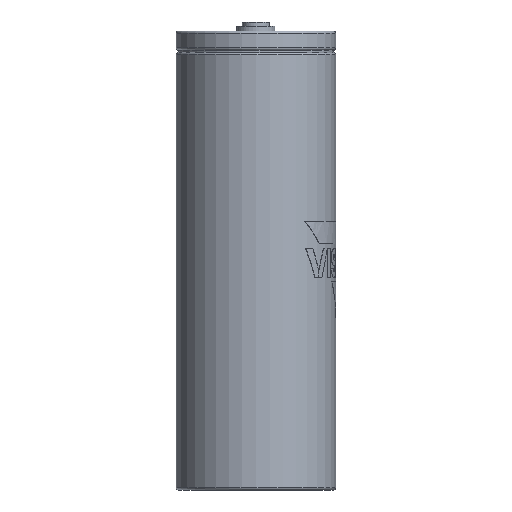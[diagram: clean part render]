
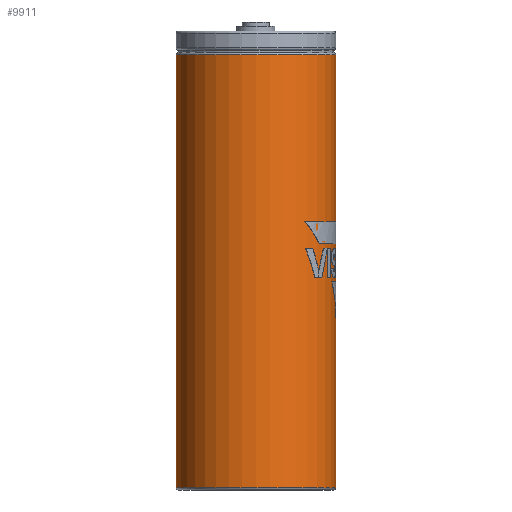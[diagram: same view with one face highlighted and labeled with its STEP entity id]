
A CAD part, left-side view. The second image highlights one B-rep face of the part: STEP entity #9911.
In plain terms, the highlighted cylindrical face has radius 38.2 mm (diameter 76.4 mm), a full revolution.
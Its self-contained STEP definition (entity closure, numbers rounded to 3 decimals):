
#9844 = TOROIDAL_SURFACE('',#9845,37.1,1.1);
#9845 = AXIS2_PLACEMENT_3D('',#9846,#9847,#9848);
#9846 = CARTESIAN_POINT('',(0.,0.,-217.6));
#9847 = DIRECTION('',(0.,0.,1.));
#9848 = DIRECTION('',(1.,0.,0.));
#9861 = VERTEX_POINT('',#9862);
#9862 = CARTESIAN_POINT('',(38.2,0.,-217.6));
#9884 = EDGE_CURVE('',#9861,#9861,#9885,.T.);
#9885 = SURFACE_CURVE('',#9886,(#9891,#9898),.PCURVE_S1.);
#9886 = CIRCLE('',#9887,38.2);
#9887 = AXIS2_PLACEMENT_3D('',#9888,#9889,#9890);
#9888 = CARTESIAN_POINT('',(0.,0.,-217.6));
#9889 = DIRECTION('',(-0.,0.,1.));
#9890 = DIRECTION('',(1.,0.,0.));
#9891 = PCURVE('',#9844,#9892);
#9892 = DEFINITIONAL_REPRESENTATION('',(#9893),#9897);
#9893 = LINE('',#9894,#9895);
#9894 = CARTESIAN_POINT('',(0.,6.283));
#9895 = VECTOR('',#9896,1.);
#9896 = DIRECTION('',(1.,0.));
#9897 = ( GEOMETRIC_REPRESENTATION_CONTEXT(2) 
PARAMETRIC_REPRESENTATION_CONTEXT() REPRESENTATION_CONTEXT('2D SPACE',''
  ) );
#9898 = PCURVE('',#9899,#9904);
#9899 = CYLINDRICAL_SURFACE('',#9900,38.2);
#9900 = AXIS2_PLACEMENT_3D('',#9901,#9902,#9903);
#9901 = CARTESIAN_POINT('',(0.,0.,-217.6));
#9902 = DIRECTION('',(0.,0.,1.));
#9903 = DIRECTION('',(1.,0.,0.));
#9904 = DEFINITIONAL_REPRESENTATION('',(#9905),#9909);
#9905 = LINE('',#9906,#9907);
#9906 = CARTESIAN_POINT('',(0.,0.));
#9907 = VECTOR('',#9908,1.);
#9908 = DIRECTION('',(1.,0.));
#9909 = ( GEOMETRIC_REPRESENTATION_CONTEXT(2) 
PARAMETRIC_REPRESENTATION_CONTEXT() REPRESENTATION_CONTEXT('2D SPACE',''
  ) );
#9911 = ADVANCED_FACE('',(#9912),#9899,.T.);
#9912 = FACE_BOUND('',#9913,.T.);
#9913 = EDGE_LOOP('',(#9914,#9915,#9938,#9965));
#9914 = ORIENTED_EDGE('',*,*,#9884,.T.);
#9915 = ORIENTED_EDGE('',*,*,#9916,.T.);
#9916 = EDGE_CURVE('',#9861,#9917,#9919,.T.);
#9917 = VERTEX_POINT('',#9918);
#9918 = CARTESIAN_POINT('',(38.2,0.,-10.2));
#9919 = SEAM_CURVE('',#9920,(#9924,#9931),.PCURVE_S1.);
#9920 = LINE('',#9921,#9922);
#9921 = CARTESIAN_POINT('',(38.2,0.,-217.6));
#9922 = VECTOR('',#9923,1.);
#9923 = DIRECTION('',(0.,0.,1.));
#9924 = PCURVE('',#9899,#9925);
#9925 = DEFINITIONAL_REPRESENTATION('',(#9926),#9930);
#9926 = LINE('',#9927,#9928);
#9927 = CARTESIAN_POINT('',(0.,0.));
#9928 = VECTOR('',#9929,1.);
#9929 = DIRECTION('',(0.,1.));
#9930 = ( GEOMETRIC_REPRESENTATION_CONTEXT(2) 
PARAMETRIC_REPRESENTATION_CONTEXT() REPRESENTATION_CONTEXT('2D SPACE',''
  ) );
#9931 = PCURVE('',#9899,#9932);
#9932 = DEFINITIONAL_REPRESENTATION('',(#9933),#9937);
#9933 = LINE('',#9934,#9935);
#9934 = CARTESIAN_POINT('',(6.283,0.));
#9935 = VECTOR('',#9936,1.);
#9936 = DIRECTION('',(0.,1.));
#9937 = ( GEOMETRIC_REPRESENTATION_CONTEXT(2) 
PARAMETRIC_REPRESENTATION_CONTEXT() REPRESENTATION_CONTEXT('2D SPACE',''
  ) );
#9938 = ORIENTED_EDGE('',*,*,#9939,.F.);
#9939 = EDGE_CURVE('',#9917,#9917,#9940,.T.);
#9940 = SURFACE_CURVE('',#9941,(#9946,#9953),.PCURVE_S1.);
#9941 = CIRCLE('',#9942,38.2);
#9942 = AXIS2_PLACEMENT_3D('',#9943,#9944,#9945);
#9943 = CARTESIAN_POINT('',(0.,0.,-10.2));
#9944 = DIRECTION('',(-0.,0.,1.));
#9945 = DIRECTION('',(1.,0.,0.));
#9946 = PCURVE('',#9899,#9947);
#9947 = DEFINITIONAL_REPRESENTATION('',(#9948),#9952);
#9948 = LINE('',#9949,#9950);
#9949 = CARTESIAN_POINT('',(0.,207.4));
#9950 = VECTOR('',#9951,1.);
#9951 = DIRECTION('',(1.,0.));
#9952 = ( GEOMETRIC_REPRESENTATION_CONTEXT(2) 
PARAMETRIC_REPRESENTATION_CONTEXT() REPRESENTATION_CONTEXT('2D SPACE',''
  ) );
#9953 = PCURVE('',#9954,#9959);
#9954 = TOROIDAL_SURFACE('',#9955,37.1,1.1);
#9955 = AXIS2_PLACEMENT_3D('',#9956,#9957,#9958);
#9956 = CARTESIAN_POINT('',(0.,0.,-10.2));
#9957 = DIRECTION('',(0.,0.,1.));
#9958 = DIRECTION('',(1.,0.,0.));
#9959 = DEFINITIONAL_REPRESENTATION('',(#9960),#9964);
#9960 = LINE('',#9961,#9962);
#9961 = CARTESIAN_POINT('',(0.,0.));
#9962 = VECTOR('',#9963,1.);
#9963 = DIRECTION('',(1.,0.));
#9964 = ( GEOMETRIC_REPRESENTATION_CONTEXT(2) 
PARAMETRIC_REPRESENTATION_CONTEXT() REPRESENTATION_CONTEXT('2D SPACE',''
  ) );
#9965 = ORIENTED_EDGE('',*,*,#9916,.F.);
